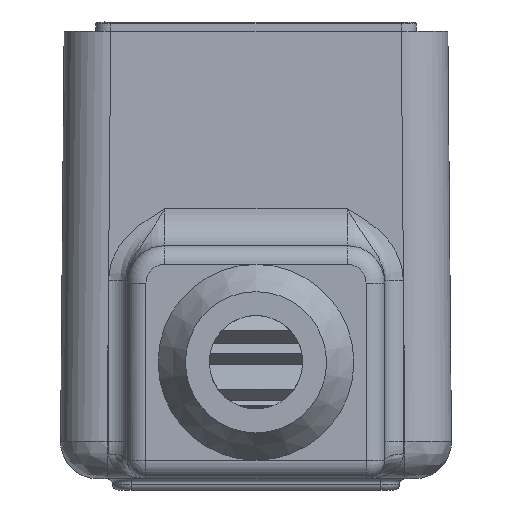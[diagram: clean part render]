
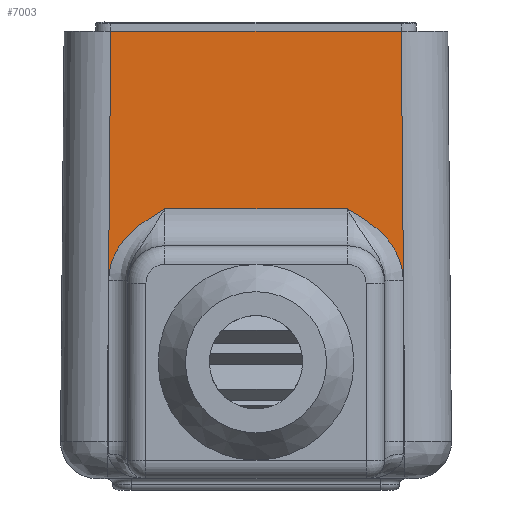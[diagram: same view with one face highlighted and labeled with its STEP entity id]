
A CAD part, front view. The second image highlights one B-rep face of the part: STEP entity #7003.
In plain terms, the highlighted planar face has unit normal (0, -1, 0.009).
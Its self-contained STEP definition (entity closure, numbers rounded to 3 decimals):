
#647=CARTESIAN_POINT('',(7.982,-13.982,2.017));
#648=VERTEX_POINT('',#647);
#664=CARTESIAN_POINT('',(7.791,-13.791,24.));
#665=VERTEX_POINT('',#664);
#673=CARTESIAN_POINT('',(7.791,-13.791,24.));
#674=DIRECTION('',(0.009,-0.009,-1.));
#675=VECTOR('',#674,21.984);
#676=LINE('',#673,#675);
#677=EDGE_CURVE('',#665,#648,#676,.T.);
#742=CARTESIAN_POINT('',(-7.982,-13.982,2.017));
#743=VERTEX_POINT('',#742);
#753=CARTESIAN_POINT('',(-7.791,-13.791,24.));
#754=VERTEX_POINT('',#753);
#755=CARTESIAN_POINT('',(-7.982,-13.982,2.017));
#756=DIRECTION('',(0.009,0.009,1.));
#757=VECTOR('',#756,21.984);
#758=LINE('',#755,#757);
#759=EDGE_CURVE('',#743,#754,#758,.T.);
#842=CARTESIAN_POINT('',(7.791,-13.791,24.));
#843=DIRECTION('',(-1.0,0.0,0.0));
#844=VECTOR('',#843,15.581);
#845=LINE('',#842,#844);
#846=EDGE_CURVE('',#665,#754,#845,.T.);
#6367=CARTESIAN_POINT('',(-4.9,-13.874,14.483));
#6368=VERTEX_POINT('',#6367);
#6452=CARTESIAN_POINT('',(4.9,-13.874,14.483));
#6453=VERTEX_POINT('',#6452);
#6463=CARTESIAN_POINT('',(4.9,-13.874,14.483));
#6464=DIRECTION('',(-1.0,0.0,0.0));
#6465=VECTOR('',#6464,9.8);
#6466=LINE('',#6463,#6465);
#6467=EDGE_CURVE('',#6453,#6368,#6466,.T.);
#6756=CARTESIAN_POINT('',(7.9,-13.982,2.017));
#6757=VERTEX_POINT('',#6756);
#6778=CARTESIAN_POINT('',(7.982,-13.982,2.017));
#6779=DIRECTION('',(-1.0,0.0,0.0));
#6780=VECTOR('',#6779,0.082);
#6781=LINE('',#6778,#6780);
#6782=EDGE_CURVE('',#648,#6757,#6781,.T.);
#6843=CARTESIAN_POINT('',(7.9,-13.907,10.61));
#6844=VERTEX_POINT('',#6843);
#6845=CARTESIAN_POINT('',(7.9,-13.907,10.61));
#6846=CARTESIAN_POINT('',(7.9,-13.904,10.952));
#6847=CARTESIAN_POINT('',(7.787,-13.898,11.644));
#6848=CARTESIAN_POINT('',(7.399,-13.892,12.417));
#6849=CARTESIAN_POINT('',(6.975,-13.887,12.962));
#6850=CARTESIAN_POINT('',(6.494,-13.883,13.448));
#6851=CARTESIAN_POINT('',(5.796,-13.878,13.965));
#6852=CARTESIAN_POINT('',(5.203,-13.875,14.308));
#6853=CARTESIAN_POINT('',(4.904,-13.874,14.48));
#6854=CARTESIAN_POINT('',(4.902,-13.874,14.481));
#6855=CARTESIAN_POINT('',(4.9,-13.874,14.483));
#6856=B_SPLINE_CURVE_WITH_KNOTS('',3,(#6845,#6846,#6847,#6848,#6849,#6850,#6851,#6852,#6853,#6854,#6855),.UNSPECIFIED.,.F.,.U.,(4,1,1,1,1,1,2,4),(-0.513,-0.411,-0.308,-0.257,-0.205,-0.103,0.0,0.001),.UNSPECIFIED.);
#6857=EDGE_CURVE('',#6844,#6453,#6856,.T.);
#6884=CARTESIAN_POINT('',(7.9,-13.982,2.017));
#6885=DIRECTION('',(0.0,0.009,1.));
#6886=VECTOR('',#6885,8.593);
#6887=LINE('',#6884,#6886);
#6888=EDGE_CURVE('',#6757,#6844,#6887,.T.);
#6958=CARTESIAN_POINT('',(10.5,-14.,0.0));
#6959=DIRECTION('',(0.,-1.,0.009));
#6960=DIRECTION('',(1.0,0.0,0.0));
#6961=AXIS2_PLACEMENT_3D('',#6958,#6959,#6960);
#6962=PLANE('',#6961);
#6963=CARTESIAN_POINT('',(-7.9,-13.907,10.61));
#6964=VERTEX_POINT('',#6963);
#6965=CARTESIAN_POINT('',(-7.9,-13.982,2.017));
#6966=VERTEX_POINT('',#6965);
#6967=CARTESIAN_POINT('',(-7.9,-13.907,10.61));
#6968=DIRECTION('',(0.0,-0.009,-1.));
#6969=VECTOR('',#6968,8.593);
#6970=LINE('',#6967,#6969);
#6971=EDGE_CURVE('',#6964,#6966,#6970,.T.);
#6972=ORIENTED_EDGE('',*,*,#6971,.F.);
#6973=CARTESIAN_POINT('',(-4.9,-13.874,14.483));
#6974=CARTESIAN_POINT('',(-4.902,-13.874,14.481));
#6975=CARTESIAN_POINT('',(-4.904,-13.874,14.48));
#6976=CARTESIAN_POINT('',(-5.203,-13.875,14.308));
#6977=CARTESIAN_POINT('',(-5.647,-13.877,14.05));
#6978=CARTESIAN_POINT('',(-6.215,-13.881,13.655));
#6979=CARTESIAN_POINT('',(-6.614,-13.884,13.326));
#6980=CARTESIAN_POINT('',(-6.975,-13.887,12.962));
#6981=CARTESIAN_POINT('',(-7.399,-13.892,12.417));
#6982=CARTESIAN_POINT('',(-7.787,-13.898,11.644));
#6983=CARTESIAN_POINT('',(-7.9,-13.904,10.952));
#6984=CARTESIAN_POINT('',(-7.9,-13.907,10.61));
#6985=B_SPLINE_CURVE_WITH_KNOTS('',3,(#6973,#6974,#6975,#6976,#6977,#6978,#6979,#6980,#6981,#6982,#6983,#6984),.UNSPECIFIED.,.F.,.U.,(4,2,1,1,1,1,1,1,4),(-0.514,-0.513,-0.411,-0.359,-0.308,-0.257,-0.205,-0.103,0.0),.UNSPECIFIED.);
#6986=EDGE_CURVE('',#6368,#6964,#6985,.T.);
#6987=ORIENTED_EDGE('',*,*,#6986,.F.);
#6988=ORIENTED_EDGE('',*,*,#6467,.F.);
#6989=ORIENTED_EDGE('',*,*,#6857,.F.);
#6990=ORIENTED_EDGE('',*,*,#6888,.F.);
#6991=ORIENTED_EDGE('',*,*,#6782,.F.);
#6992=ORIENTED_EDGE('',*,*,#677,.F.);
#6993=ORIENTED_EDGE('',*,*,#846,.T.);
#6994=ORIENTED_EDGE('',*,*,#759,.F.);
#6995=CARTESIAN_POINT('',(-7.9,-13.982,2.017));
#6996=DIRECTION('',(-1.0,0.0,0.0));
#6997=VECTOR('',#6996,0.082);
#6998=LINE('',#6995,#6997);
#6999=EDGE_CURVE('',#6966,#743,#6998,.T.);
#7000=ORIENTED_EDGE('',*,*,#6999,.F.);
#7001=EDGE_LOOP('',(#6972,#6987,#6988,#6989,#6990,#6991,#6992,#6993,#6994,#7000));
#7002=FACE_OUTER_BOUND('',#7001,.T.);
#7003=ADVANCED_FACE('',(#7002),#6962,.T.);
